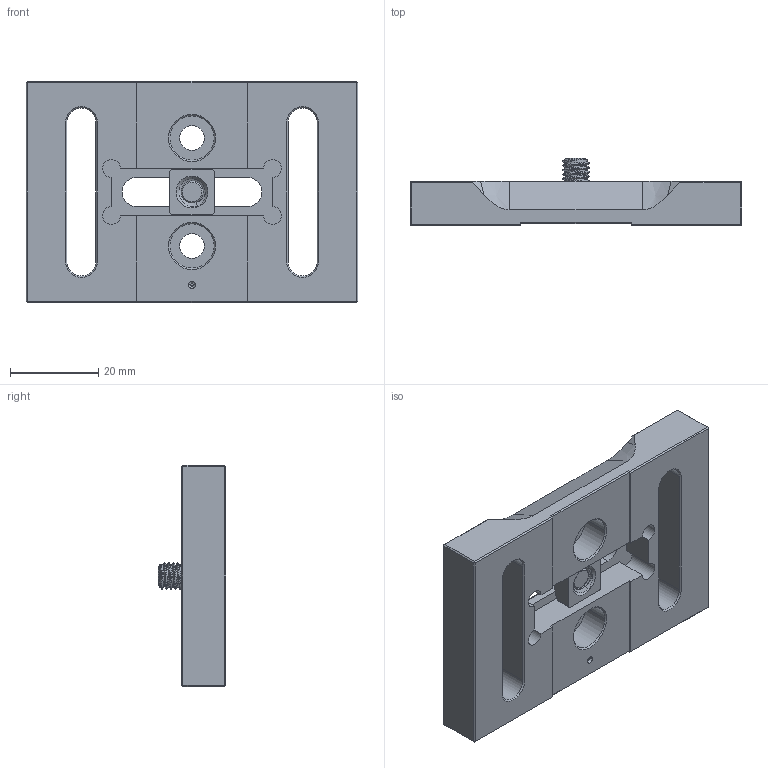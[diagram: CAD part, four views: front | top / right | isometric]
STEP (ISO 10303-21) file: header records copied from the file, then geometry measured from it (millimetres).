
FILE_DESCRIPTION((''),'2;1');
FILE_NAME('M-BASE_ASM','2020-10-29T',('Administrator'),(''),'CREO PARAMETRIC BY PTC INC, 2015290','CREO PARAMETRIC BY PTC INC, 2015290','');
FILE_SCHEMA(('CONFIG_CONTROL_DESIGN'));
Length unit declared in the file: millimetre
Products named in the file (5): M-BASE_A1; M-BASE_NUT; M-BASE_M6_SCREW; M-BASE_KH; M-BASE_ASM
Assembly tree (4 placements, depth 2):
  M-BASE_ASM
    M-BASE_A1
    M-BASE_NUT
    M-BASE_M6_SCREW
    M-BASE_KH
Bounding box: 75 x 15.3 x 50 mm (x, y, z)
Volume: 27131.7 mm3; surface area: 12259.3 mm2
Topology: 4 solids, 4 shells, 222 faces, 576 edges, 369 vertices
Faces by surface type: plane 88, cylinder 69, bspline 35, cone 28, revolution 2
Entity records: 14732 total; most frequent: CARTESIAN_POINT 9402, ORIENTED_EDGE 1152, DIRECTION 968, EDGE_CURVE 576, VERTEX_POINT 369, VECTOR 330, LINE 330, AXIS2_PLACEMENT_3D 318
